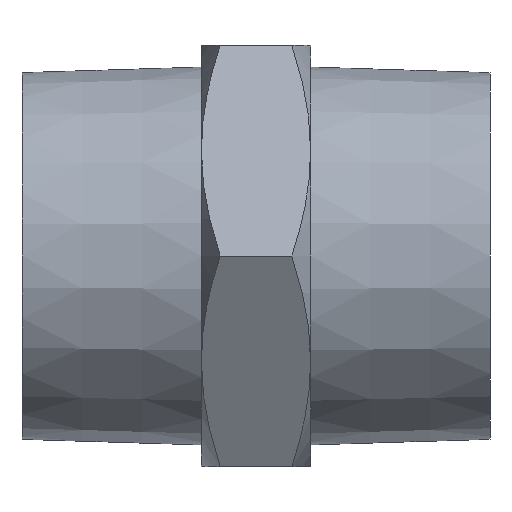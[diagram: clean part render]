
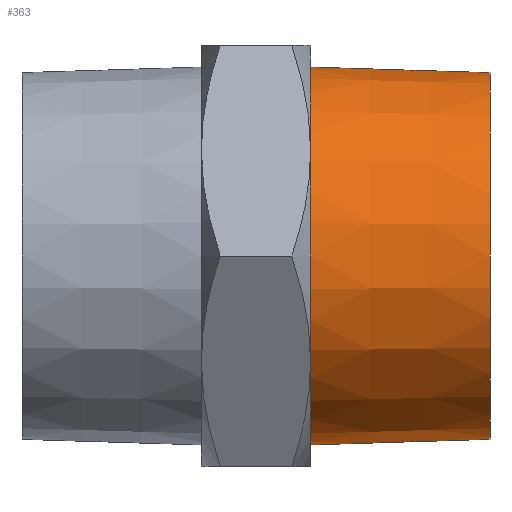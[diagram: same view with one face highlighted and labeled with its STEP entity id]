
A CAD part, front view. The second image highlights one B-rep face of the part: STEP entity #363.
In plain terms, the highlighted conical face has half-angle 1.79 degrees and reference radius 24.223 mm.
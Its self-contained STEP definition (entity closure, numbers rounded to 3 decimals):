
#39=CONICAL_SURFACE('',#412,24.223,0.031);
#69=FACE_OUTER_BOUND('',#95,.T.);
#95=EDGE_LOOP('',(#257,#258,#259,#260,#261,#262));
#122=LINE('',#572,#131);
#131=VECTOR('',#470,24.223);
#141=CIRCLE('',#410,23.505);
#142=CIRCLE('',#411,23.505);
#143=CIRCLE('',#413,24.223);
#144=CIRCLE('',#414,24.223);
#163=VERTEX_POINT('',#566);
#164=VERTEX_POINT('',#567);
#165=VERTEX_POINT('',#571);
#166=VERTEX_POINT('',#573);
#198=EDGE_CURVE('',#163,#164,#141,.T.);
#199=EDGE_CURVE('',#164,#163,#142,.T.);
#200=EDGE_CURVE('',#164,#165,#122,.T.);
#201=EDGE_CURVE('',#166,#165,#143,.T.);
#202=EDGE_CURVE('',#165,#166,#144,.T.);
#257=ORIENTED_EDGE('',*,*,#198,.F.);
#258=ORIENTED_EDGE('',*,*,#199,.F.);
#259=ORIENTED_EDGE('',*,*,#200,.T.);
#260=ORIENTED_EDGE('',*,*,#201,.F.);
#261=ORIENTED_EDGE('',*,*,#202,.F.);
#262=ORIENTED_EDGE('',*,*,#200,.F.);
#363=ADVANCED_FACE('',(#69),#39,.T.);
#410=AXIS2_PLACEMENT_3D('',#568,#464,#465);
#411=AXIS2_PLACEMENT_3D('',#569,#466,#467);
#412=AXIS2_PLACEMENT_3D('',#570,#468,#469);
#413=AXIS2_PLACEMENT_3D('',#574,#471,#472);
#414=AXIS2_PLACEMENT_3D('',#575,#473,#474);
#464=DIRECTION('center_axis',(1.,0.,0.));
#465=DIRECTION('ref_axis',(0.,0.,-1.));
#466=DIRECTION('center_axis',(1.,0.,0.));
#467=DIRECTION('ref_axis',(0.,0.,-1.));
#468=DIRECTION('center_axis',(-1.,0.,0.));
#469=DIRECTION('ref_axis',(0.,0.,-1.));
#470=DIRECTION('',(-1.,0.,0.031));
#471=DIRECTION('center_axis',(-1.,0.,0.));
#472=DIRECTION('ref_axis',(0.,0.,-1.));
#473=DIRECTION('center_axis',(-1.,0.,0.));
#474=DIRECTION('ref_axis',(0.,0.,-1.));
#566=CARTESIAN_POINT('',(30.,0.,-23.505));
#567=CARTESIAN_POINT('',(30.,0.,23.505));
#568=CARTESIAN_POINT('Origin',(30.,0.,0.));
#569=CARTESIAN_POINT('Origin',(30.,0.,0.));
#570=CARTESIAN_POINT('Origin',(7.,0.,0.));
#571=CARTESIAN_POINT('',(7.,0.,24.223));
#572=CARTESIAN_POINT('',(7.,0.,24.223));
#573=CARTESIAN_POINT('',(7.,0.,-24.223));
#574=CARTESIAN_POINT('Origin',(7.,0.,0.));
#575=CARTESIAN_POINT('Origin',(7.,0.,0.));
